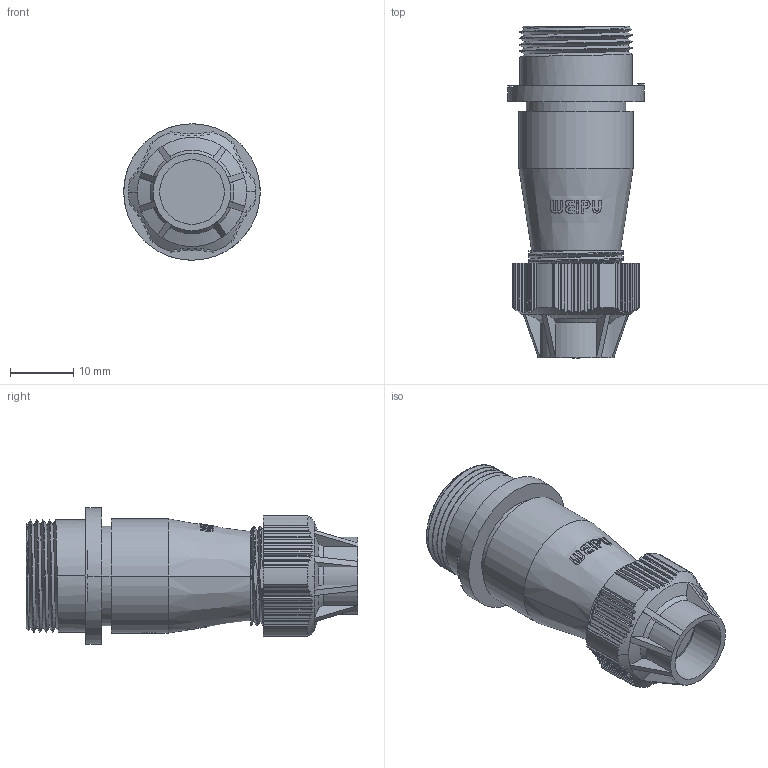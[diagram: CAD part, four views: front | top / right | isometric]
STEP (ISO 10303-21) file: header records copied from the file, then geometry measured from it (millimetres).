
FILE_DESCRIPTION((''),'2;1');
FILE_NAME('WF16J2ZE','2019-11-26T',('Administrator'),(''),'CREO PARAMETRIC BY PTC INC, 2016130','CREO PARAMETRIC BY PTC INC, 2016130','');
FILE_SCHEMA(('CONFIG_CONTROL_DESIGN'));
Length unit declared in the file: millimetre
Products named in the file (1): WF16J2ZE
Bounding box: 21.5 x 52.3 x 21.5 mm (x, y, z)
Volume: 9254.9 mm3; surface area: 6209.5 mm2
Topology: 2 solids, 3 shells, 521 faces, 1540 edges, 1034 vertices
Faces by surface type: plane 246, cylinder 161, cone 57, extrusion 31, bspline 18, torus 4, sphere 4
Entity records: 23129 total; most frequent: CARTESIAN_POINT 9870, ORIENTED_EDGE 3072, DIRECTION 2342, EDGE_CURVE 1536, VERTEX_POINT 1034, AXIS2_PLACEMENT_3D 834, VECTOR 674, LINE 643
